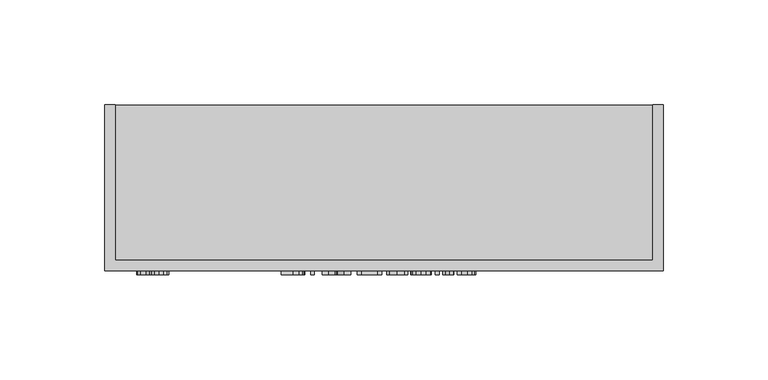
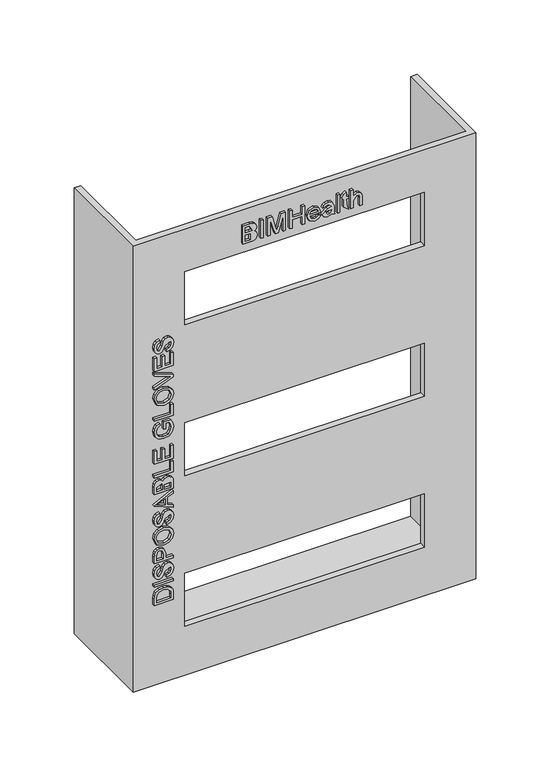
"""IFC4 building model written with IfcOpenShell, lengths in millimetres: proxy geometry, BIMHealth-Glove_Dispenser-LOD2A-v1.0005 : BIMHealth-Glove_Dispenser-LOD2A-v1.0005."""

from ifc_helpers import new_model, si_unit, frame, origin, place, context, project, spatial, polyline, outline, extrude, faceted_brep, source, transform, mapped, element, save


def generic_models_cdc84ac3(model_context):
    return source(origin(), model_context, "Body", "SolidModel", [
        extrude(outline(polyline([(1266.9139763, 30.0923037), (1272.2541205, 30.0923037), (1274.6285196, 29.8398998), (1276.3935436, 29.0989143), (1277.7421013, 27.759371), (1278.7517167, 25.6085296), (1279.1447455, 22.6283614), (1278.5642167, 19.1163421), (1276.8154186, 16.5923037), (1274.6447455, 15.5358133), (1272.0089282, 15.3230729), (1266.9139763, 15.3230729), (1266.9139763, 30.0923037)]), holes=[polyline([(1268.7601301, 28.2461498), (1268.7601301, 17.1692268), (1271.9764763, 17.1692268), (1274.5942647, 17.4648998), (1276.5107311, 19.1019191), (1277.2985917, 22.5995152), (1276.8965484, 25.3921835), (1274.403159, 27.9793229), (1272.0269571, 28.2461498), (1268.7601301, 28.2461498)])]), frame((0.0, -81.0, 0.0), z_axis=(0.0, 1.0, 0.0), x_axis=(0.0, 0.0, 1.0)), (0.0, 0.0, 1.0), 2.0),
        extrude(outline(polyline([(30.0923037, -81.0), (15.3230729, -81.0), (15.3230729, -79.0), (30.0923037, -79.0), (30.0923037, -81.0)])), frame((0.0, 0.0, 1281.9139763), z_axis=(0.0, 0.0, 1.0), x_axis=(1.0, 0.0, 0.0)), (0.0, 0.0, 1.0), 1.8461538),
        extrude(outline(polyline([(1286.7601301, 25.0153806), (1287.5570051, 27.8350921), (1289.6429426, 29.7028806), (1292.9404186, 30.3230729), (1295.7330869, 29.7479527), (1297.636933, 28.1361739), (1298.2985917, 25.9276402), (1297.7234715, 23.8398998), (1295.9368128, 22.3435056), (1292.6699859, 21.4168229), (1289.0678224, 19.1055248), (1289.8971494, 17.5730729), (1292.5401782, 16.9384575), (1295.1759955, 17.5802844), (1296.2216686, 19.4769191), (1298.0678224, 19.4769191), (1297.3358513, 17.165621), (1295.3887359, 15.618746), (1292.4680628, 15.0923037), (1289.731284, 15.5953085), (1287.8616926, 17.0700681), (1287.2216686, 19.1596114), (1287.7390965, 20.9949479), (1289.309409, 22.368746), (1292.2030388, 23.2792027), (1294.7973897, 28.1397796), (1292.8683032, 28.4769191), (1290.6543609, 28.0316066), (1289.2012359, 26.8633373), (1288.606284, 25.0153806), (1286.7601301, 25.0153806)])), frame((0.0, -81.0, 0.0), z_axis=(0.0, 1.0, 0.0), x_axis=(0.0, 0.0, 1.0)), (0.0, 0.0, 1.0), 2.0),
        extrude(outline(polyline([(1301.0678224, 30.0923037), (1302.9139763, 30.0923037), (1302.9139763, 24.0923037), (1306.6675821, 24.0923037), (1310.9566446, 22.7870152), (1312.1447455, 19.5959094), (1311.7048417, 17.5820873), (1310.5419811, 16.1542027), (1308.7481109, 15.4636979), (1306.5413801, 15.3230729), (1301.0678224, 15.3230729), (1301.0678224, 30.0923037)]), holes=[polyline([(1302.9139763, 22.2461498), (1302.9139763, 17.1692268), (1306.7324859, 17.1692268), (1309.824433, 18.1319671), (1310.2985917, 19.6608133), (1309.4945051, 21.5682652), (1306.7757551, 22.2461498), (1302.9139763, 22.2461498)])]), frame((0.0, -81.0, 0.0), z_axis=(0.0, 1.0, 0.0), x_axis=(0.0, 0.0, 1.0)), (0.0, 0.0, 1.0), 2.0),
        extrude(outline(polyline([(1313.9908994, 22.9023998), (1314.8346494, 26.5784816), (1317.3154186, 29.3188662), (1321.0293609, 30.3230729), (1324.6044811, 29.4144191), (1327.1645772, 26.7389383), (1328.0678224, 22.7329287), (1327.2096494, 18.7810056), (1324.7144571, 16.0658614), (1321.0401782, 15.0923037), (1315.9596494, 17.165621), (1313.9908994, 22.9023998)]), holes=[polyline([(1315.8370532, 22.9204287), (1317.3767167, 18.3176643), (1321.0509955, 16.9384575), (1323.7607311, 17.6542027), (1325.5942647, 19.6716306), (1326.2216686, 22.7185056), (1324.7559234, 26.9769191), (1321.0185436, 28.4769191), (1317.3136157, 26.9913421), (1315.8370532, 22.9204287)])]), frame((0.0, -81.0, 0.0), z_axis=(0.0, 1.0, 0.0), x_axis=(0.0, 0.0, 1.0)), (0.0, 0.0, 1.0), 2.0),
        extrude(outline(polyline([(1329.9139763, 25.0153806), (1330.7108513, 27.8350921), (1332.7967888, 29.7028806), (1336.0942647, 30.3230729), (1338.886933, 29.7479527), (1340.7907792, 28.1361739), (1341.4524378, 25.9276402), (1340.8773176, 23.8398998), (1339.090659, 22.3435056), (1335.8238321, 21.4168229), (1332.2216686, 19.1055248), (1333.0509955, 17.5730729), (1335.6940244, 16.9384575), (1338.3298417, 17.5802844), (1339.3755147, 19.4769191), (1341.2216686, 19.4769191), (1340.4896974, 17.165621), (1338.5425821, 15.618746), (1335.621909, 15.0923037), (1332.8851301, 15.5953085), (1331.0155388, 17.0700681), (1330.3755147, 19.1596114), (1330.8929426, 20.9949479), (1332.4632551, 22.368746), (1335.3568849, 23.2792027), (1337.9512359, 28.1397796), (1336.0221494, 28.4769191), (1333.8082071, 28.0316066), (1332.3550821, 26.8633373), (1331.7601301, 25.0153806), (1329.9139763, 25.0153806)])), frame((0.0, -81.0, 0.0), z_axis=(0.0, 1.0, 0.0), x_axis=(0.0, 0.0, 1.0)), (0.0, 0.0, 1.0), 2.0),
        extrude(outline(polyline([(1342.5053224, 30.0923037), (1344.4524378, 30.0923037), (1346.1399378, 25.4769191), (1352.2264763, 25.4769191), (1353.9139763, 30.0923037), (1355.8646974, 30.0923037), (1348.4007551, 15.3230729), (1342.5053224, 30.0923037)]), holes=[polyline([(1346.8178224, 23.6307652), (1348.2637359, 19.6824479), (1349.1832071, 17.1692268), (1350.2180628, 19.9997556), (1351.5521974, 23.6307652), (1346.8178224, 23.6307652)])]), frame((0.0, -81.0, 0.0), z_axis=(0.0, 1.0, 0.0), x_axis=(0.0, 0.0, 1.0)), (0.0, 0.0, 1.0), 2.0),
        extrude(outline(polyline([(1357.8370532, 30.0923037), (1363.4296013, 30.0923037), (1365.7967888, 29.8380969), (1367.403159, 29.0880969), (1368.4794811, 27.6746354), (1368.9139763, 25.6896594), (1368.277558, 23.3927844), (1366.4584474, 22.0153806), (1367.9566446, 20.7082893), (1368.4524378, 18.9829287), (1367.8628946, 17.0935056), (1366.2330869, 15.7575681), (1363.4728705, 15.3230729), (1357.8370532, 15.3230729), (1357.8370532, 30.0923037)]), holes=[polyline([(1359.6832071, 28.2461498), (1359.6832071, 23.1692268), (1363.2889763, 23.1692268), (1363.4692647, 28.2461498), (1359.6832071, 28.2461498)]), polyline([(1359.6832071, 21.3230729), (1359.6832071, 17.1692268), (1362.7985917, 17.1692268), (1365.0233513, 21.1644191), (1363.0546013, 21.3230729), (1359.6832071, 21.3230729)])]), frame((0.0, -81.0, 0.0), z_axis=(0.0, 1.0, 0.0), x_axis=(0.0, 0.0, 1.0)), (0.0, 0.0, 1.0), 2.0),
        extrude(outline(polyline([(1371.4524378, 30.0923037), (1380.6832071, 30.0923037), (1380.6832071, 28.2461498), (1373.2985917, 28.2461498), (1373.2985917, 15.3230729), (1371.4524378, 15.3230729), (1371.4524378, 30.0923037)])), frame((0.0, -81.0, 0.0), z_axis=(0.0, 1.0, 0.0), x_axis=(0.0, 0.0, 1.0)), (0.0, 0.0, 1.0), 2.0),
        extrude(outline(polyline([(1382.7601301, 30.0923037), (1393.606284, 30.0923037), (1393.606284, 28.2461498), (1384.606284, 28.2461498), (1384.606284, 23.399996), (1392.9139763, 23.399996), (1392.9139763, 21.5538421), (1384.606284, 21.5538421), (1384.606284, 17.1692268), (1393.3755147, 17.1692268), (1393.3755147, 15.3230729), (1382.7601301, 15.3230729), (1382.7601301, 30.0923037)])), frame((0.0, -81.0, 0.0), z_axis=(0.0, 1.0, 0.0), x_axis=(0.0, 0.0, 1.0)), (0.0, 0.0, 1.0), 2.0),
        extrude(outline(polyline([(1409.0678224, 24.3230729), (1413.2216686, 24.3230729), (1413.2216686, 26.9913421), (1411.3520772, 28.0027604), (1408.8262359, 28.4769191), (1406.011933, 27.8477123), (1403.9927022, 25.9222316), (1403.2985917, 22.7040825), (1403.8755147, 19.8050441), (1404.8256349, 18.3825681), (1406.433808, 17.336895), (1408.7973897, 16.9384575), (1410.8725099, 17.3080489), (1412.3112119, 18.2924239), (1413.153159, 19.9997556), (1414.8550821, 19.5201883), (1413.7390965, 17.0772796), (1411.7144571, 15.6169431), (1408.8262359, 15.0923037), (1404.9392167, 15.9973518), (1402.3520772, 18.7647796), (1401.4524378, 22.7798037), (1402.355683, 26.7064864), (1405.0311638, 29.3945873), (1408.9740724, 30.3230729), (1412.105683, 29.7389383), (1415.0678224, 27.9973518), (1415.0678224, 22.4769191), (1409.0678224, 22.4769191), (1409.0678224, 24.3230729)])), frame((0.0, -81.0, 0.0), z_axis=(0.0, 1.0, 0.0), x_axis=(0.0, 0.0, 1.0)), (0.0, 0.0, 1.0), 2.0),
        extrude(outline(polyline([(1418.0678224, 30.0923037), (1427.2985917, 30.0923037), (1427.2985917, 28.2461498), (1419.9139763, 28.2461498), (1419.9139763, 15.3230729), (1418.0678224, 15.3230729), (1418.0678224, 30.0923037)])), frame((0.0, -81.0, 0.0), z_axis=(0.0, 1.0, 0.0), x_axis=(0.0, 0.0, 1.0)), (0.0, 0.0, 1.0), 2.0),
        extrude(outline(polyline([(1428.6832071, 22.9023998), (1429.5269571, 26.5784816), (1432.0077263, 29.3188662), (1435.7216686, 30.3230729), (1439.2967888, 29.4144191), (1441.8568849, 26.7389383), (1442.7601301, 22.7329287), (1441.9019571, 18.7810056), (1439.4067647, 16.0658614), (1435.7324859, 15.0923037), (1430.6519571, 17.165621), (1428.6832071, 22.9023998)]), holes=[polyline([(1430.5293609, 22.9204287), (1432.0690244, 18.3176643), (1435.7433032, 16.9384575), (1438.4530388, 17.6542027), (1440.2865724, 19.6716306), (1440.9139763, 22.7185056), (1439.4482311, 26.9769191), (1435.7108513, 28.4769191), (1432.0059234, 26.9913421), (1430.5293609, 22.9204287)])]), frame((0.0, -81.0, 0.0), z_axis=(0.0, 1.0, 0.0), x_axis=(0.0, 0.0, 1.0)), (0.0, 0.0, 1.0), 2.0),
        extrude(outline(polyline([(1449.6579667, 30.0923037), (1451.5618128, 30.0923037), (1457.1940244, 15.3230729), (1455.2216686, 15.3230729), (1451.2769571, 25.9636979), (1450.4908994, 28.3615344), (1449.6940244, 25.9636979), (1445.7601301, 15.3230729), (1443.7841686, 15.3230729), (1449.6579667, 30.0923037)])), frame((0.0, -81.0, 0.0), z_axis=(0.0, 1.0, 0.0), x_axis=(0.0, 0.0, 1.0)), (0.0, 0.0, 1.0), 2.0),
        extrude(outline(polyline([(1458.9139763, 30.0923037), (1469.7601301, 30.0923037), (1469.7601301, 28.2461498), (1460.7601301, 28.2461498), (1460.7601301, 23.399996), (1469.0678224, 23.399996), (1469.0678224, 21.5538421), (1460.7601301, 21.5538421), (1460.7601301, 17.1692268), (1469.5293609, 17.1692268), (1469.5293609, 15.3230729), (1458.9139763, 15.3230729), (1458.9139763, 30.0923037)])), frame((0.0, -81.0, 0.0), z_axis=(0.0, 1.0, 0.0), x_axis=(0.0, 0.0, 1.0)), (0.0, 0.0, 1.0), 2.0),
        extrude(outline(polyline([(1471.8370532, 25.0153806), (1472.6339282, 27.8350921), (1474.7198657, 29.7028806), (1478.0173417, 30.3230729), (1480.8100099, 29.7479527), (1482.7138561, 28.1361739), (1483.3755147, 25.9276402), (1482.8003946, 23.8398998), (1481.0137359, 22.3435056), (1477.746909, 21.4168229), (1474.1447455, 19.1055248), (1474.9740724, 17.5730729), (1477.6171013, 16.9384575), (1480.2529186, 17.5802844), (1481.2985917, 19.4769191), (1483.1447455, 19.4769191), (1482.4127744, 17.165621), (1480.465659, 15.618746), (1477.5449859, 15.0923037), (1474.8082071, 15.5953085), (1472.9386157, 17.0700681), (1472.2985917, 19.1596114), (1472.8160196, 20.9949479), (1474.3863321, 22.368746), (1477.2799619, 23.2792027), (1479.8743128, 28.1397796), (1477.9452263, 28.4769191), (1475.731284, 28.0316066), (1474.278159, 26.8633373), (1473.6832071, 25.0153806), (1471.8370532, 25.0153806)])), frame((0.0, -81.0, 0.0), z_axis=(0.0, 1.0, 0.0), x_axis=(0.0, 0.0, 1.0)), (0.0, 0.0, 1.0), 2.0),
        extrude(outline(polyline([(1539.3036656, 84.1351454), (1539.3036656, 89.7276935), (1539.5578724, 92.094881), (1540.3078724, 93.7012511), (1541.7213339, 94.7775733), (1543.7063099, 95.2120685), (1546.0031849, 94.5756502), (1547.3805887, 92.7565396), (1548.6876801, 94.2547367), (1550.4130406, 94.75053), (1552.3024637, 94.1609867), (1553.6384012, 92.531179), (1554.0728964, 89.7709627), (1554.0728964, 84.1351454), (1539.3036656, 84.1351454)]), holes=[polyline([(1541.1498195, 85.9812992), (1546.2267426, 85.9812992), (1546.2267426, 89.5870685), (1541.1498195, 89.7673569), (1541.1498195, 85.9812992)]), polyline([(1548.0728964, 85.9812992), (1552.2267426, 85.9812992), (1552.2267426, 89.0966838), (1548.2315503, 91.3214435), (1548.0728964, 89.3526935), (1548.0728964, 85.9812992)])]), frame((0.0, -81.0, 0.0), z_axis=(0.0, 1.0, 0.0), x_axis=(0.0, 0.0, 1.0)), (0.0, 0.0, 1.0), 2.0),
        extrude(outline(polyline([(99.8274531, -81.0), (97.9812992, -81.0), (97.9812992, -79.0), (99.8274531, -79.0), (99.8274531, -81.0)])), frame((0.0, 0.0, 1539.3036656), z_axis=(0.0, 0.0, 1.0), x_axis=(1.0, 0.0, 0.0)), (0.0, 0.0, 1.0), 14.7692308),
        extrude(outline(polyline([(1539.3036656, 103.5197608), (1539.3036656, 105.3659146), (1552.2267426, 105.3659146), (1539.3036656, 109.0798569), (1539.3036656, 111.578655), (1552.2267426, 115.2889915), (1539.3036656, 115.2889915), (1539.3036656, 117.1351454), (1554.0728964, 117.1351454), (1554.0728964, 113.9584627), (1543.8433291, 110.9873088), (1541.4887618, 110.3274531), (1543.6630406, 109.7144723), (1554.0728964, 106.6856261), (1554.0728964, 103.5197608), (1539.3036656, 103.5197608)])), frame((0.0, -81.0, 0.0), z_axis=(0.0, 1.0, 0.0), x_axis=(0.0, 0.0, 1.0)), (0.0, 0.0, 1.0), 2.0),
        extrude(outline(polyline([(1539.3036656, 120.3659146), (1539.3036656, 122.2120685), (1546.2267426, 122.2120685), (1546.2267426, 130.0582223), (1539.3036656, 130.0582223), (1539.3036656, 131.9043761), (1554.0728964, 131.9043761), (1554.0728964, 130.0582223), (1548.0728964, 130.0582223), (1548.0728964, 122.2120685), (1554.0728964, 122.2120685), (1554.0728964, 120.3659146), (1539.3036656, 120.3659146)])), frame((0.0, -81.0, 0.0), z_axis=(0.0, 1.0, 0.0), x_axis=(0.0, 0.0, 1.0)), (0.0, 0.0, 1.0), 2.0),
        extrude(outline(polyline([(1542.5344349, 142.4981261), (1541.3048676, 141.3082223), (1540.9190503, 139.4981261), (1541.751983, 137.1201213), (1544.1498195, 136.0582223), (1544.6474156, 144.3659146), (1548.876983, 142.9650733), (1550.3805887, 139.3575011), (1548.8733772, 135.6435588), (1544.6365983, 134.2120685), (1540.5350358, 135.6291358), (1539.0728964, 139.4620685), (1539.9202522, 142.6153136), (1542.3036656, 144.3082223), (1542.5344349, 142.4981261)]), holes=[polyline([(1545.9959733, 136.0582223), (1547.8439301, 137.0768521), (1548.5344349, 139.3502896), (1547.6690503, 141.7805781), (1545.9959733, 142.5197608), (1545.9959733, 136.0582223)])]), frame((0.0, -81.0, 0.0), z_axis=(0.0, 1.0, 0.0), x_axis=(0.0, 0.0, 1.0)), (0.0, 0.0, 1.0), 2.0),
        extrude(outline(polyline([(1539.9959733, 153.3659146), (1539.3036656, 155.4428377), (1540.8559493, 155.0750492), (1544.063281, 154.9812992), (1546.360156, 154.9812992), (1550.0524637, 153.0612271), (1550.3805887, 150.8238473), (1550.0091945, 148.3881502), (1548.9527041, 146.7799771), (1547.1498195, 145.9812992), (1548.1792666, 148.7180781), (1548.5344349, 150.5858665), (1546.2267426, 153.1243281), (1545.5921272, 149.922405), (1542.188281, 145.75053), (1539.9490983, 146.6862271), (1539.0728964, 149.3671165), (1539.4370791, 151.344881), (1539.9959733, 153.3659146)]), holes=[polyline([(1543.4052281, 152.9837031), (1541.360757, 151.6279338), (1540.9190503, 149.7601454), (1543.5152041, 148.5684386), (1543.814483, 150.15678), (1543.4052281, 152.9837031)])]), frame((0.0, -81.0, 0.0), z_axis=(0.0, 1.0, 0.0), x_axis=(0.0, 0.0, 1.0)), (0.0, 0.0, 1.0), 2.0),
        extrude(outline(polyline([(159.3659146, -81.0), (157.5197608, -81.0), (157.5197608, -79.0), (159.3659146, -79.0), (159.3659146, -81.0)])), frame((0.0, 0.0, 1539.3036656), z_axis=(0.0, 0.0, 1.0), x_axis=(1.0, 0.0, 0.0)), (0.0, 0.0, 1.0), 14.7692308),
        extrude(outline(polyline([(1541.5879205, 165.1351454), (1548.3036656, 164.2120685), (1548.3036656, 166.0582223), (1550.1498195, 166.0582223), (1550.1498195, 164.2120685), (1553.8709733, 164.2120685), (1552.7856368, 162.3659146), (1550.1498195, 160.9812992), (1548.3036656, 162.3659146), (1542.2784253, 162.3659146), (1539.2495791, 166.2889915), (1541.5879205, 165.1351454)])), frame((0.0, -81.0, 0.0), z_axis=(0.0, 1.0, 0.0), x_axis=(0.0, 0.0, 1.0)), (0.0, 0.0, 1.0), 2.0),
        extrude(outline(polyline([(1539.3036656, 167.9043761), (1539.3036656, 169.75053), (1545.0656849, 169.75053), (1548.5344349, 172.5738473), (1547.9250599, 174.2397127), (1545.9779445, 174.8274531), (1539.3036656, 174.8274531), (1539.3036656, 176.6736069), (1546.1690503, 176.6736069), (1548.595733, 176.2950011), (1549.9064301, 175.0365877), (1550.3805887, 172.9632704), (1548.642608, 169.75053), (1554.0728964, 169.75053), (1554.0728964, 167.9043761), (1539.3036656, 167.9043761)])), frame((0.0, -81.0, 0.0), z_axis=(0.0, 1.0, 0.0), x_axis=(0.0, 0.0, 1.0)), (0.0, 0.0, 1.0), 2.0),
        faceted_brep([(0.0, -79.0, 1200.0), (266.0, -79.0, 1200.0), (266.0, -79.0, 1566.0), (0.0, -79.0, 1566.0), (40.0, -79.0, 1531.0), (226.0, -79.0, 1531.0), (226.0, -79.0, 1487.4), (40.0, -79.0, 1487.4), (226.0, -79.0, 1240.0), (40.0, -79.0, 1240.0), (40.0, -79.0, 1283.6), (226.0, -79.0, 1283.6), (226.0, -79.0, 1363.7), (40.0, -79.0, 1363.7), (40.0, -79.0, 1407.3), (226.0, -79.0, 1407.3), (266.0, 0.0, 1200.0), (0.0, 0.0, 1200.0), (0.0, 0.0, 1566.0), (5.0, 0.0, 1566.0), (5.0, 0.0, 1205.0), (261.0, 0.0, 1205.0), (261.0, 0.0, 1566.0), (266.0, 0.0, 1566.0), (0.0, -74.0, 1200.0), (266.0, -74.0, 1200.0), (261.0, -74.0, 1205.0), (261.0, -74.0, 1566.0), (5.0, -74.0, 1205.0), (5.0, -74.0, 1566.0), (226.0, -74.0, 1531.0), (40.0, -74.0, 1531.0), (40.0, -74.0, 1487.4), (226.0, -74.0, 1487.4), (40.0, -74.0, 1240.0), (226.0, -74.0, 1240.0), (226.0, -74.0, 1283.6), (40.0, -74.0, 1283.6), (40.0, -74.0, 1363.7), (226.0, -74.0, 1363.7), (226.0, -74.0, 1407.3), (40.0, -74.0, 1407.3)], [[[0, 1, 2, 3], [4, 5, 6, 7], [8, 9, 10, 11], [12, 13, 14, 15]], [[16, 17, 18, 19, 20, 21, 22, 23]], [[17, 24, 0, 3, 18]], [[1, 0, 24, 17, 16, 25]], [[25, 16, 23, 2, 1]], [[22, 21, 26, 27]], [[21, 20, 28, 26]], [[20, 19, 29, 28]], [[27, 26, 28, 29], [30, 31, 32, 33], [34, 35, 36, 37], [38, 39, 40, 41]], [[30, 5, 4, 31]], [[31, 4, 7, 32]], [[32, 7, 6, 33]], [[5, 30, 33, 6]], [[3, 2, 23, 22, 27, 29, 19, 18]], [[34, 9, 8, 35]], [[9, 34, 37, 10]], [[10, 37, 36, 11]], [[11, 36, 35, 8]], [[38, 13, 12, 39]], [[13, 38, 41, 14]], [[14, 41, 40, 15]], [[15, 40, 39, 12]]]),
    ])


if __name__ == "__main__":
    model = new_model("IFC4")
    model_context = context("Model", 3, world=origin())
    ifc_project = project(units=[si_unit("LENGTHUNIT", "METRE", prefix="MILLI")], contexts=[model_context])
    site = spatial("IfcSite", under=ifc_project)
    building = spatial("IfcBuilding", under=site)
    placement = place(None, origin())
    generic_models_shape = generic_models_cdc84ac3(model_context)
    element("IfcBuildingElementProxy", 1, Name="BIMHealth-Glove_Dispenser-LOD2A-v1.0005 : BIMHealth-Glove_Dispenser-LOD2A-v1.0005", ObjectType="BIMHealth-Glove_Dispenser-LOD2A-v1.0005 : BIMHealth-Glove_Dispenser-LOD2A-v1.0005", at=placement, inside=building, context=model_context, shape_type="MappedRepresentation", body=[
        mapped(generic_models_shape, transform((0.0, 0.0, 0.0), x_axis=(1.0, 0.0, 0.0), y_axis=(0.0, 1.0, 0.0), z_axis=(0.0, 0.0, 1.0))),
    ])
    save(model, "model.ifc")
